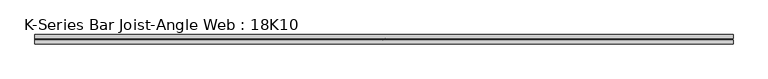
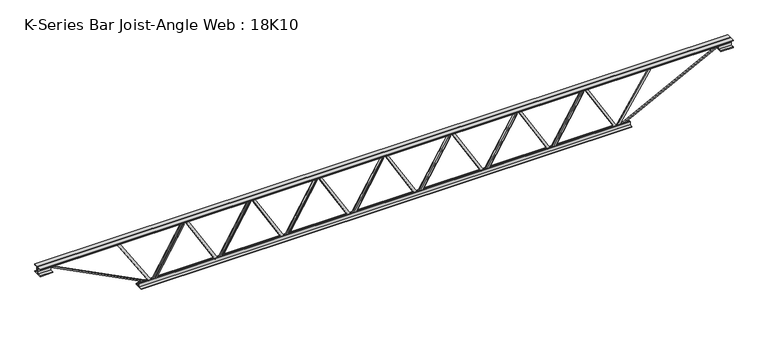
"""IFC4 building model written with IfcOpenShell, lengths in millimetres: beam geometry, K-Series Bar Joist-Angle Web : 18K10."""

from ifc_helpers import new_model, si_unit, frame, origin, place, context, project, spatial, polyline, outline, extrude, faceted_brep, source, transform, mapped, element, save


def k_series_bar_joist_angle_web_18k10_bfc22dfb(model_context):
    return source(origin(), model_context, "Body", "SolidModel", [
        extrude(outline(polyline([(-4.75, 4.7625), (-4.75, 0.0), (-17.45, 0.0), (-17.45, 4.7625), (-4.75, 4.7625)])), frame((1306.5023602, 0.0, -190.4), z_axis=(-0.5088022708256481, 0.0, 0.8608834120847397), x_axis=(0.0, -1.0, 0.0)), (0.0, 0.0, 1.0), 442.3363195),
        extrude(outline(polyline([(-225.325, 1338.9285714), (-206.275, 1338.9285714), (-206.275, 1338.0132892), (225.325, 1082.9275749), (225.325, 1064.7928571), (206.275, 1064.7928571), (206.275, 1072.0581394), (-225.325, 1327.1438537), (-225.325, 1338.9285714)])), frame((0.0, 0.0, 0.0), z_axis=(0.0, 1.0, 0.0), x_axis=(0.0, 0.0, 1.0)), (0.0, 0.0, 1.0), 4.75),
        faceted_brep([(803.3571429, 0.0, -206.275), (803.3571429, 0.0, -225.325), (803.3571429, -4.75, -225.325), (803.3571429, -4.75, -206.275), (804.2724251, 0.0, -206.275), (1059.3581394, 0.0, 225.325), (1077.4928571, 0.0, 225.325), (1077.4928571, 0.0, 206.275), (1070.2275749, 0.0, 206.275), (815.1418606, 0.0, -225.325), (815.1418606, -4.75, -225.325), (835.7833541, -4.75, -190.4), (831.6833968, -4.75, -187.9768292), (1056.7451206, -4.75, 192.8231708), (1060.8450779, -4.75, 190.4), (1070.2275749, -4.75, 206.275), (1077.4928571, -4.75, 206.275), (1077.4928571, -4.75, 225.325), (1059.3581394, -4.75, 225.325), (804.2724251, -4.75, -206.275), (1060.8450779, -17.4625, 190.4), (835.7833541, -17.4625, -190.4), (831.6833968, -17.4625, -187.9768292), (1056.7451206, -17.4625, 192.8231708)], [[[0, 1, 2, 3]], [[1, 0, 4, 5, 6, 7, 8, 9]], [[2, 1, 9, 10]], [[3, 2, 10, 11, 12, 13, 14, 15, 16, 17, 18, 19]], [[0, 3, 19, 4]], [[9, 8, 15, 14, 20, 21, 11, 10]], [[5, 4, 19, 18]], [[7, 6, 17, 16]], [[8, 7, 16, 15]], [[6, 5, 18, 17]], [[21, 22, 12, 11]], [[20, 14, 13, 23]], [[22, 21, 20, 23]], [[12, 22, 23, 13]]]),
        extrude(outline(polyline([(-4.75, 4.7625), (-4.75, 0.0), (-17.45, 0.0), (-17.45, 4.7625), (-4.75, 4.7625)])), frame((770.9309316, 0.0, -190.4), z_axis=(-0.5088022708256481, 0.0, 0.8608834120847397), x_axis=(0.0, -1.0, 0.0)), (0.0, 0.0, 1.0), 442.3363195),
        extrude(outline(polyline([(-225.325, 803.3571429), (-206.275, 803.3571429), (-206.275, 802.4418606), (225.325, 547.3561463), (225.325, 529.2214286), (206.275, 529.2214286), (206.275, 536.4867108), (-225.325, 791.5724251), (-225.325, 803.3571429)])), frame((0.0, 0.0, 0.0), z_axis=(0.0, 1.0, 0.0), x_axis=(0.0, 0.0, 1.0)), (0.0, 0.0, 1.0), 4.75),
        faceted_brep([(267.7857143, 0.0, -206.275), (267.7857143, 0.0, -225.325), (267.7857143, -4.75, -225.325), (267.7857143, -4.75, -206.275), (268.7009965, 0.0, -206.275), (523.7867108, 0.0, 225.325), (541.9214286, 0.0, 225.325), (541.9214286, 0.0, 206.275), (534.6561463, 0.0, 206.275), (279.570432, 0.0, -225.325), (279.570432, -4.75, -225.325), (300.2119255, -4.75, -190.4), (296.1119682, -4.75, -187.9768292), (521.1736921, -4.75, 192.8231708), (525.2736493, -4.75, 190.4), (534.6561463, -4.75, 206.275), (541.9214286, -4.75, 206.275), (541.9214286, -4.75, 225.325), (523.7867108, -4.75, 225.325), (268.7009965, -4.75, -206.275), (525.2736493, -17.4625, 190.4), (300.2119255, -17.4625, -190.4), (296.1119682, -17.4625, -187.9768292), (521.1736921, -17.4625, 192.8231708)], [[[0, 1, 2, 3]], [[1, 0, 4, 5, 6, 7, 8, 9]], [[2, 1, 9, 10]], [[3, 2, 10, 11, 12, 13, 14, 15, 16, 17, 18, 19]], [[0, 3, 19, 4]], [[9, 8, 15, 14, 20, 21, 11, 10]], [[5, 4, 19, 18]], [[7, 6, 17, 16]], [[8, 7, 16, 15]], [[6, 5, 18, 17]], [[21, 22, 12, 11]], [[20, 14, 13, 23]], [[22, 21, 20, 23]], [[12, 22, 23, 13]]]),
        extrude(outline(polyline([(-4.75, 4.7624999), (-4.75, 0.0), (-17.45, 0.0), (-17.45, 4.7624999), (-4.75, 4.7624999)])), frame((235.3595031, 0.0, -190.4), z_axis=(-0.5088022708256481, 0.0, 0.8608834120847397), x_axis=(0.0, -1.0, 0.0)), (0.0, 0.0, 1.0), 442.3363195),
        extrude(outline(polyline([(-225.325, 267.7857143), (-206.275, 267.7857143), (-206.275, 266.870432), (225.325, 11.7847178), (225.325, -6.35), (206.275, -6.35), (206.275, 0.9152822), (-225.325, 256.0009965), (-225.325, 267.7857143)])), frame((0.0, 0.0, 0.0), z_axis=(0.0, 1.0, 0.0), x_axis=(0.0, 0.0, 1.0)), (0.0, 0.0, 1.0), 4.75),
        faceted_brep([(-267.7857143, 0.0, -206.275), (-267.7857143, 0.0, -225.325), (-267.7857143, -4.75, -225.325), (-267.7857143, -4.75, -206.275), (-266.870432, 0.0, -206.275), (-11.7847178, 0.0, 225.325), (6.35, 0.0, 225.325), (6.35, 0.0, 206.275), (-0.9152822, 0.0, 206.275), (-256.0009965, 0.0, -225.325), (-256.0009965, -4.75, -225.325), (-235.3595031, -4.75, -190.4), (-239.4594603, -4.75, -187.9768292), (-14.3977365, -4.75, 192.8231708), (-10.2977793, -4.75, 190.4), (-0.9152822, -4.75, 206.275), (6.35, -4.75, 206.275), (6.35, -4.75, 225.325), (-11.7847178, -4.75, 225.325), (-266.870432, -4.75, -206.275), (-10.2977793, -17.4625, 190.4), (-235.3595031, -17.4625, -190.4), (-239.4594603, -17.4625, -187.9768292), (-14.3977365, -17.4625, 192.8231708)], [[[0, 1, 2, 3]], [[1, 0, 4, 5, 6, 7, 8, 9]], [[2, 1, 9, 10]], [[3, 2, 10, 11, 12, 13, 14, 15, 16, 17, 18, 19]], [[0, 3, 19, 4]], [[9, 8, 15, 14, 20, 21, 11, 10]], [[5, 4, 19, 18]], [[7, 6, 17, 16]], [[8, 7, 16, 15]], [[6, 5, 18, 17]], [[21, 22, 12, 11]], [[20, 14, 13, 23]], [[22, 21, 20, 23]], [[12, 22, 23, 13]]]),
        extrude(outline(polyline([(-4.75, 4.7625), (-4.75, 0.0), (-17.45, 0.0), (-17.45, 4.7625), (-4.75, 4.7625)])), frame((-300.2119255, 0.0, -190.4), z_axis=(-0.5088022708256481, 0.0, 0.8608834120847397), x_axis=(0.0, -1.0, 0.0)), (0.0, 0.0, 1.0), 442.3363195),
        extrude(outline(polyline([(-225.325, -267.7857143), (-206.275, -267.7857143), (-206.275, -268.7009965), (225.325, -523.7867108), (225.325, -541.9214286), (206.275, -541.9214286), (206.275, -534.6561463), (-225.325, -279.570432), (-225.325, -267.7857143)])), frame((0.0, 0.0, 0.0), z_axis=(0.0, 1.0, 0.0), x_axis=(0.0, 0.0, 1.0)), (0.0, 0.0, 1.0), 4.75),
        faceted_brep([(-803.3571429, 0.0, -206.275), (-803.3571429, 0.0, -225.325), (-803.3571429, -4.75, -225.325), (-803.3571429, -4.75, -206.275), (-802.4418606, 0.0, -206.275), (-547.3561463, 0.0, 225.325), (-529.2214286, 0.0, 225.325), (-529.2214286, 0.0, 206.275), (-536.4867108, 0.0, 206.275), (-791.5724251, 0.0, -225.325), (-791.5724251, -4.75, -225.325), (-770.9309316, -4.75, -190.4), (-775.0308889, -4.75, -187.9768292), (-549.9691651, -4.75, 192.8231708), (-545.8692078, -4.75, 190.4), (-536.4867108, -4.75, 206.275), (-529.2214286, -4.75, 206.275), (-529.2214286, -4.75, 225.325), (-547.3561463, -4.75, 225.325), (-802.4418606, -4.75, -206.275), (-545.8692078, -17.4625, 190.4), (-770.9309316, -17.4625, -190.4), (-775.0308889, -17.4625, -187.9768292), (-549.9691651, -17.4625, 192.8231708)], [[[0, 1, 2, 3]], [[1, 0, 4, 5, 6, 7, 8, 9]], [[2, 1, 9, 10]], [[3, 2, 10, 11, 12, 13, 14, 15, 16, 17, 18, 19]], [[0, 3, 19, 4]], [[9, 8, 15, 14, 20, 21, 11, 10]], [[5, 4, 19, 18]], [[7, 6, 17, 16]], [[8, 7, 16, 15]], [[6, 5, 18, 17]], [[21, 22, 12, 11]], [[20, 14, 13, 23]], [[22, 21, 20, 23]], [[12, 22, 23, 13]]]),
        extrude(outline(polyline([(-4.75, 4.7625), (-4.75, 0.0), (-17.45, 0.0), (-17.45, 4.7625), (-4.75, 4.7625)])), frame((-835.7833541, 0.0, -190.4), z_axis=(-0.5088022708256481, 0.0, 0.8608834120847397), x_axis=(0.0, -1.0, 0.0)), (0.0, 0.0, 1.0), 442.3363195),
        extrude(outline(polyline([(-225.325, -803.3571429), (-206.275, -803.3571429), (-206.275, -804.2724251), (225.325, -1059.3581394), (225.325, -1077.4928571), (206.275, -1077.4928571), (206.275, -1070.2275749), (-225.325, -815.1418606), (-225.325, -803.3571429)])), frame((0.0, 0.0, 0.0), z_axis=(0.0, 1.0, 0.0), x_axis=(0.0, 0.0, 1.0)), (0.0, 0.0, 1.0), 4.75),
        faceted_brep([(-1338.9285714, 0.0, -206.275), (-1338.9285714, 0.0, -225.325), (-1338.9285714, -4.75, -225.325), (-1338.9285714, -4.75, -206.275), (-1338.0132892, 0.0, -206.275), (-1082.9275749, 0.0, 225.325), (-1064.7928571, 0.0, 225.325), (-1064.7928571, 0.0, 206.275), (-1072.0581394, 0.0, 206.275), (-1327.1438537, 0.0, -225.325), (-1327.1438537, -4.75, -225.325), (-1306.5023602, -4.75, -190.4), (-1310.6023175, -4.75, -187.9768292), (-1085.5405937, -4.75, 192.8231708), (-1081.4406364, -4.75, 190.4), (-1072.0581394, -4.75, 206.275), (-1064.7928571, -4.75, 206.275), (-1064.7928571, -4.75, 225.325), (-1082.9275749, -4.75, 225.325), (-1338.0132892, -4.75, -206.275), (-1081.4406364, -17.4625, 190.4), (-1306.5023602, -17.4625, -190.4), (-1310.6023175, -17.4625, -187.9768292), (-1085.5405937, -17.4625, 192.8231708)], [[[0, 1, 2, 3]], [[1, 0, 4, 5, 6, 7, 8, 9]], [[2, 1, 9, 10]], [[3, 2, 10, 11, 12, 13, 14, 15, 16, 17, 18, 19]], [[0, 3, 19, 4]], [[9, 8, 15, 14, 20, 21, 11, 10]], [[5, 4, 19, 18]], [[7, 6, 17, 16]], [[8, 7, 16, 15]], [[6, 5, 18, 17]], [[21, 22, 12, 11]], [[20, 14, 13, 23]], [[22, 21, 20, 23]], [[12, 22, 23, 13]]]),
        extrude(outline(polyline([(-4.75, 4.7624999), (-4.75, 0.0), (-17.45, 0.0), (-17.45, 4.7624999), (-4.75, 4.7624999)])), frame((1842.0737888, 0.0, -190.4), z_axis=(-0.5088022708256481, 0.0, 0.8608834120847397), x_axis=(0.0, -1.0, 0.0)), (0.0, 0.0, 1.0), 442.3363195),
        extrude(outline(polyline([(-225.325, 1874.5), (-206.275, 1874.5), (-206.275, 1873.5847178), (225.325, 1618.4990035), (225.325, 1600.3642857), (206.275, 1600.3642857), (206.275, 1607.629568), (-225.325, 1862.7152822), (-225.325, 1874.5)])), frame((0.0, 0.0, 0.0), z_axis=(0.0, 1.0, 0.0), x_axis=(0.0, 0.0, 1.0)), (0.0, 0.0, 1.0), 4.75),
        faceted_brep([(1338.9285714, 0.0, -206.275), (1338.9285714, 0.0, -225.325), (1338.9285714, -4.75, -225.325), (1338.9285714, -4.75, -206.275), (1339.8438537, 0.0, -206.275), (1594.929568, 0.0, 225.325), (1613.0642857, 0.0, 225.325), (1613.0642857, 0.0, 206.275), (1605.7990035, 0.0, 206.275), (1350.7132892, 0.0, -225.325), (1350.7132892, -4.75, -225.325), (1371.3547826, -4.75, -190.4), (1367.2548254, -4.75, -187.9768292), (1592.3165492, -4.75, 192.8231708), (1596.4165065, -4.75, 190.4), (1605.7990035, -4.75, 206.275), (1613.0642857, -4.75, 206.275), (1613.0642857, -4.75, 225.325), (1594.929568, -4.75, 225.325), (1339.8438537, -4.75, -206.275), (1596.4165065, -17.4625, 190.4), (1371.3547826, -17.4625, -190.4), (1367.2548254, -17.4625, -187.9768292), (1592.3165492, -17.4625, 192.8231708)], [[[0, 1, 2, 3]], [[1, 0, 4, 5, 6, 7, 8, 9]], [[2, 1, 9, 10]], [[3, 2, 10, 11, 12, 13, 14, 15, 16, 17, 18, 19]], [[0, 3, 19, 4]], [[9, 8, 15, 14, 20, 21, 11, 10]], [[5, 4, 19, 18]], [[7, 6, 17, 16]], [[8, 7, 16, 15]], [[6, 5, 18, 17]], [[21, 22, 12, 11]], [[20, 14, 13, 23]], [[22, 21, 20, 23]], [[12, 22, 23, 13]]]),
        extrude(outline(polyline([(-4.75, 4.7624999), (-4.75, 0.0), (-17.45, 0.0), (-17.45, 4.7624999), (-4.75, 4.7624999)])), frame((-1371.3547826, 0.0, -190.4), z_axis=(-0.5088022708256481, 0.0, 0.8608834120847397), x_axis=(0.0, -1.0, 0.0)), (0.0, 0.0, 1.0), 442.3363195),
        extrude(outline(polyline([(-225.325, -1338.9285714), (-206.275, -1338.9285714), (-206.275, -1339.8438537), (225.325, -1594.929568), (225.325, -1613.0642857), (206.275, -1613.0642857), (206.275, -1605.7990035), (-225.325, -1350.7132892), (-225.325, -1338.9285714)])), frame((0.0, 0.0, 0.0), z_axis=(0.0, 1.0, 0.0), x_axis=(0.0, 0.0, 1.0)), (0.0, 0.0, 1.0), 4.75),
        faceted_brep([(-1874.5, 0.0, -206.275), (-1874.5, 0.0, -225.325), (-1874.5, -4.75, -225.325), (-1874.5, -4.75, -206.275), (-1873.5847178, 0.0, -206.275), (-1618.4990035, 0.0, 225.325), (-1600.3642857, 0.0, 225.325), (-1600.3642857, 0.0, 206.275), (-1607.629568, 0.0, 206.275), (-1862.7152822, 0.0, -225.325), (-1862.7152822, -4.75, -225.325), (-1842.0737888, -4.75, -190.4), (-1846.173746, -4.75, -187.9768292), (-1621.1120222, -4.75, 192.8231708), (-1617.012065, -4.75, 190.4), (-1607.629568, -4.75, 206.275), (-1600.3642857, -4.75, 206.275), (-1600.3642857, -4.75, 225.325), (-1618.4990035, -4.75, 225.325), (-1873.5847178, -4.75, -206.275), (-1617.012065, -17.4625, 190.4), (-1842.0737888, -17.4625, -190.4), (-1846.173746, -17.4625, -187.9768292), (-1621.1120222, -17.4625, 192.8231708)], [[[0, 1, 2, 3]], [[1, 0, 4, 5, 6, 7, 8, 9]], [[2, 1, 9, 10]], [[3, 2, 10, 11, 12, 13, 14, 15, 16, 17, 18, 19]], [[0, 3, 19, 4]], [[9, 8, 15, 14, 20, 21, 11, 10]], [[5, 4, 19, 18]], [[7, 6, 17, 16]], [[8, 7, 16, 15]], [[6, 5, 18, 17]], [[21, 22, 12, 11]], [[20, 14, 13, 23]], [[22, 21, 20, 23]], [[12, 22, 23, 13]]]),
        extrude(outline(polyline([(4.75, 228.5), (36.75, 228.5), (36.75, 222.0), (11.25, 222.0), (11.25, 196.5), (4.75, 196.5), (4.75, 228.5)])), frame((-2788.5, 0.0, 0.0), z_axis=(1.0, 0.0, 0.0), x_axis=(0.0, 1.0, 0.0)), (0.0, 0.0, 1.0), 5577.0),
        extrude(outline(polyline([(-4.75, 228.5), (-4.75, 196.5), (-11.25, 196.5), (-11.25, 222.0), (-36.75, 222.0), (-36.75, 228.5), (-4.75, 228.5)])), frame((-2788.5, 0.0, 0.0), z_axis=(1.0, 0.0, 0.0), x_axis=(0.0, 1.0, 0.0)), (0.0, 0.0, 1.0), 5577.0),
        extrude(outline(polyline([(4.75, -228.5), (4.75, -196.5), (11.25, -196.5), (11.25, -222.0), (36.75, -222.0), (36.75, -228.5), (4.75, -228.5)])), frame((-1974.5, 0.0, 0.0), z_axis=(1.0, 0.0, 0.0), x_axis=(0.0, 1.0, 0.0)), (0.0, 0.0, 1.0), 3949.0),
        extrude(outline(polyline([(-4.75, -228.5), (-36.75, -228.5), (-36.75, -222.0), (-11.25, -222.0), (-11.25, -196.5), (-4.75, -196.5), (-4.75, -228.5)])), frame((-1974.5, 0.0, 0.0), z_axis=(1.0, 0.0, 0.0), x_axis=(0.0, 1.0, 0.0)), (0.0, 0.0, 1.0), 3949.0),
        extrude(outline(polyline([(4.75, 165.0), (4.75, 196.5), (11.25, 196.5), (11.25, 171.5), (36.75, 171.5), (36.75, 165.0), (4.75, 165.0)])), frame((2688.5, 0.0, 0.0), z_axis=(1.0, 0.0, 0.0), x_axis=(0.0, 1.0, 0.0)), (0.0, 0.0, 1.0), 100.0),
        extrude(outline(polyline([(-4.75, 165.0), (-36.75, 165.0), (-36.75, 171.5), (-11.25, 171.5), (-11.25, 196.5), (-4.75, 196.5), (-4.75, 165.0)])), frame((2688.5, 0.0, 0.0), z_axis=(1.0, 0.0, 0.0), x_axis=(0.0, 1.0, 0.0)), (0.0, 0.0, 1.0), 100.0),
        extrude(outline(polyline([(-4.75, 165.0), (-36.75, 165.0), (-36.75, 171.5), (-11.25, 171.5), (-11.25, 196.5), (-4.75, 196.5), (-4.75, 165.0)])), frame((-2788.5, 0.0, 0.0), z_axis=(1.0, 0.0, 0.0), x_axis=(0.0, 1.0, 0.0)), (0.0, 0.0, 1.0), 100.0),
        extrude(outline(polyline([(36.75, 165.0), (4.75, 165.0), (4.75, 196.5), (11.25, 196.5), (11.25, 171.5), (36.75, 171.5), (36.75, 165.0)])), frame((-2788.5, 0.0, 0.0), z_axis=(1.0, 0.0, 0.0), x_axis=(0.0, 1.0, 0.0)), (0.0, 0.0, 1.0), 100.0),
        extrude(outline(polyline([(219.4566712, -2162.2428571), (200.4066712, -2162.2428571), (200.4066712, -2154.5033894), (-227.0100244, -1882.1263988), (-216.7722606, -1866.0611975), (219.4566712, -2144.0539032), (219.4566712, -2162.2428571)])), frame((0.0, 0.0, 0.0), z_axis=(0.0, 1.0, 0.0), x_axis=(0.0, 0.0, 1.0)), (0.0, 0.0, 1.0), 4.7625),
        extrude(outline(polyline([(-4.7625, -10.5646146), (-4.7625, 8.4853853), (0.0, 8.4853853), (0.0, -10.5646146), (-4.7625, -10.5646146)])), frame((1874.5, 0.0, -222.15), z_axis=(0.5388391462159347, 0.0, 0.8424086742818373), x_axis=(0.0, -1.0, 0.0)), (0.0, 0.0, 1.0), 496.9678171),
        extrude(outline(polyline([(-226.3740718, -1876.672491), (-217.9259282, -1872.327509), (201.25, -2687.3500948), (201.25, -2788.5), (191.75, -2788.5), (191.75, -2689.6499052), (-226.3740718, -1876.672491)])), frame((0.0, -4.75, 0.0), z_axis=(0.0, 1.0, 0.0), x_axis=(0.0, 0.0, 1.0)), (0.0, 0.0, 1.0), 9.5),
        extrude(outline(polyline([(0.0, -9.5), (0.0, 0.0), (915.3490168, 0.0), (915.3490168, -9.5), (0.0, -9.5)])), frame((2690.672491, -4.75, 192.2759282), z_axis=(-0.4573665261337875, 0.0, 0.8892782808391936), x_axis=(-0.8892782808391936, 0.0, -0.4573665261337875)), (0.0, 0.0, 1.0), 9.5),
    ])


if __name__ == "__main__":
    model = new_model("IFC4")
    model_context = context("Model", 3, world=origin())
    ifc_project = project(units=[si_unit("LENGTHUNIT", "METRE", prefix="MILLI")], contexts=[model_context])
    site = spatial("IfcSite", under=ifc_project)
    building = spatial("IfcBuilding", under=site)
    placement = place(None, origin())
    k_series_bar_joist_angle_web_18k10_shape = k_series_bar_joist_angle_web_18k10_bfc22dfb(model_context)
    element("IfcBeam", 1, ObjectType="K-Series Bar Joist-Angle Web : 18K10", at=placement, inside=building, context=model_context, shape_type="MappedRepresentation", body=[
        mapped(k_series_bar_joist_angle_web_18k10_shape, transform((0.0, 0.0, 0.0), x_axis=(1.0, 0.0, 0.0), y_axis=(0.0, 1.0, 0.0), z_axis=(0.0, 0.0, 1.0))),
    ])
    save(model, "model.ifc")
